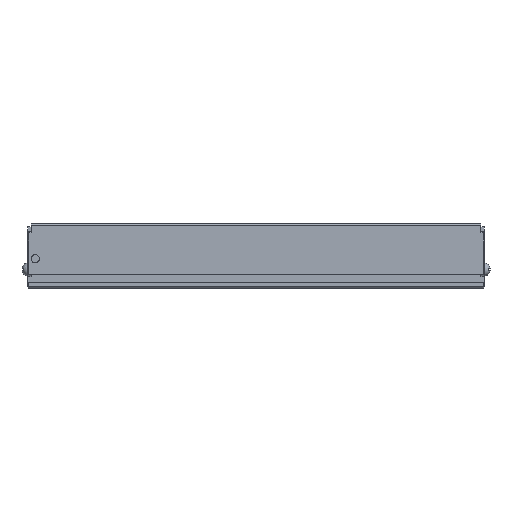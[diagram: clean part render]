
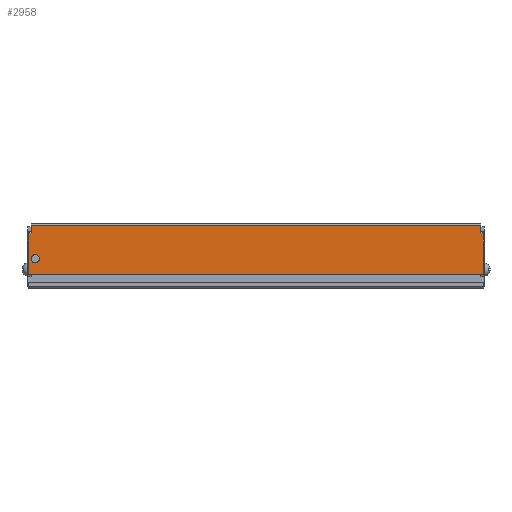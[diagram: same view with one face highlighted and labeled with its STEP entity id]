
A CAD part, top view. The second image highlights one B-rep face of the part: STEP entity #2958.
In plain terms, the highlighted planar face has unit normal (0, 0, 1) as drawn and (1, 0, 0) by its records, which use the part's own axes.
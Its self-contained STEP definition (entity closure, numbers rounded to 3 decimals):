
#332=DIRECTION('',(0.,1.,0.));
#333=VECTOR('',#332,17.499);
#334=CARTESIAN_POINT('',(9.,-4.3,-95.5));
#335=LINE('',#334,#333);
#735=DIRECTION('',(0.,0.,1.));
#736=VECTOR('',#735,1.);
#737=CARTESIAN_POINT('',(9.,13.197,94.5));
#738=LINE('',#737,#736);
#759=DIRECTION('',(0.,-1.,0.));
#760=VECTOR('',#759,3.303);
#761=CARTESIAN_POINT('',(9.,16.5,94.5));
#762=LINE('',#761,#760);
#827=CARTESIAN_POINT('',(9.,2.3,92.75));
#828=DIRECTION('',(1.,0.,0.));
#829=DIRECTION('',(0.,0.,-1.));
#830=AXIS2_PLACEMENT_3D('',#827,#828,#829);
#832=CARTESIAN_POINT('',(9.,2.3,92.75));
#833=DIRECTION('',(1.,0.,0.));
#834=DIRECTION('',(0.,0.,1.));
#835=AXIS2_PLACEMENT_3D('',#832,#833,#834);
#837=DIRECTION('',(0.,-1.,0.));
#838=VECTOR('',#837,3.301);
#839=CARTESIAN_POINT('',(9.,16.5,-94.5));
#840=LINE('',#839,#838);
#841=DIRECTION('',(0.,0.,-1.));
#842=VECTOR('',#841,1.);
#843=CARTESIAN_POINT('',(9.,13.199,-94.5));
#844=LINE('',#843,#842);
#845=DIRECTION('',(0.,0.,1.));
#846=VECTOR('',#845,191.);
#847=CARTESIAN_POINT('',(9.,-4.3,-95.5));
#848=LINE('',#847,#846);
#849=DIRECTION('',(0.,0.,-1.));
#850=VECTOR('',#849,189.);
#851=CARTESIAN_POINT('',(9.,16.5,94.5));
#852=LINE('',#851,#850);
#1391=DIRECTION('',(0.,-1.,0.));
#1392=VECTOR('',#1391,17.497);
#1393=CARTESIAN_POINT('',(9.,13.197,95.5));
#1394=LINE('',#1393,#1392);
#1720=CARTESIAN_POINT('',(9.,13.197,95.5));
#1722=VERTEX_POINT('',#1720);
#1723=CARTESIAN_POINT('',(9.,-4.3,95.5));
#1724=VERTEX_POINT('',#1723);
#1787=CARTESIAN_POINT('',(9.,16.5,-94.5));
#1789=VERTEX_POINT('',#1787);
#1801=CARTESIAN_POINT('',(9.,16.5,94.5));
#1802=VERTEX_POINT('',#1801);
#1803=CARTESIAN_POINT('',(9.,2.3,94.5));
#1805=VERTEX_POINT('',#1803);
#1809=CARTESIAN_POINT('',(9.,2.3,91.));
#1810=VERTEX_POINT('',#1809);
#1823=CARTESIAN_POINT('',(9.,13.197,94.5));
#1824=VERTEX_POINT('',#1823);
#1921=CARTESIAN_POINT('',(9.,13.199,-95.5));
#1923=VERTEX_POINT('',#1921);
#1925=CARTESIAN_POINT('',(9.,-4.3,-95.5));
#1926=VERTEX_POINT('',#1925);
#1965=CARTESIAN_POINT('',(9.,13.199,-94.5));
#1967=VERTEX_POINT('',#1965);
#2935=CARTESIAN_POINT('',(9.,-4.3,94.5));
#2936=DIRECTION('',(1.,0.,0.));
#2937=DIRECTION('',(0.,1.,0.));
#2938=AXIS2_PLACEMENT_3D('',#2935,#2936,#2937);
#2939=PLANE('',#2938);
#2940=ORIENTED_EDGE('',*,*,#2030,.T.);
#2941=ORIENTED_EDGE('',*,*,#2375,.T.);
#2942=ORIENTED_EDGE('',*,*,#2359,.F.);
#2944=ORIENTED_EDGE('',*,*,#2943,.T.);
#2946=ORIENTED_EDGE('',*,*,#2945,.F.);
#2947=ORIENTED_EDGE('',*,*,#2792,.F.);
#2948=ORIENTED_EDGE('',*,*,#2819,.F.);
#2949=ORIENTED_EDGE('',*,*,#2928,.T.);
#2950=EDGE_LOOP('',(#2940,#2941,#2942,#2944,#2946,#2947,#2948,#2949));
#2951=FACE_OUTER_BOUND('',#2950,.F.);
#2953=ORIENTED_EDGE('',*,*,#2952,.T.);
#2955=ORIENTED_EDGE('',*,*,#2954,.T.);
#2956=EDGE_LOOP('',(#2953,#2955));
#2957=FACE_BOUND('',#2956,.F.);
#831=CIRCLE('',#830,1.75);
#836=CIRCLE('',#835,1.75);
#2030=EDGE_CURVE('',#1789,#1967,#840,.T.);
#2359=EDGE_CURVE('',#1926,#1923,#335,.T.);
#2375=EDGE_CURVE('',#1967,#1923,#844,.T.);
#2792=EDGE_CURVE('',#1824,#1722,#738,.T.);
#2819=EDGE_CURVE('',#1802,#1824,#762,.T.);
#2928=EDGE_CURVE('',#1802,#1789,#852,.T.);
#2943=EDGE_CURVE('',#1926,#1724,#848,.T.);
#2945=EDGE_CURVE('',#1722,#1724,#1394,.T.);
#2952=EDGE_CURVE('',#1810,#1805,#831,.T.);
#2954=EDGE_CURVE('',#1805,#1810,#836,.T.);
#2958=ADVANCED_FACE('',(#2951,#2957),#2939,.T.);
